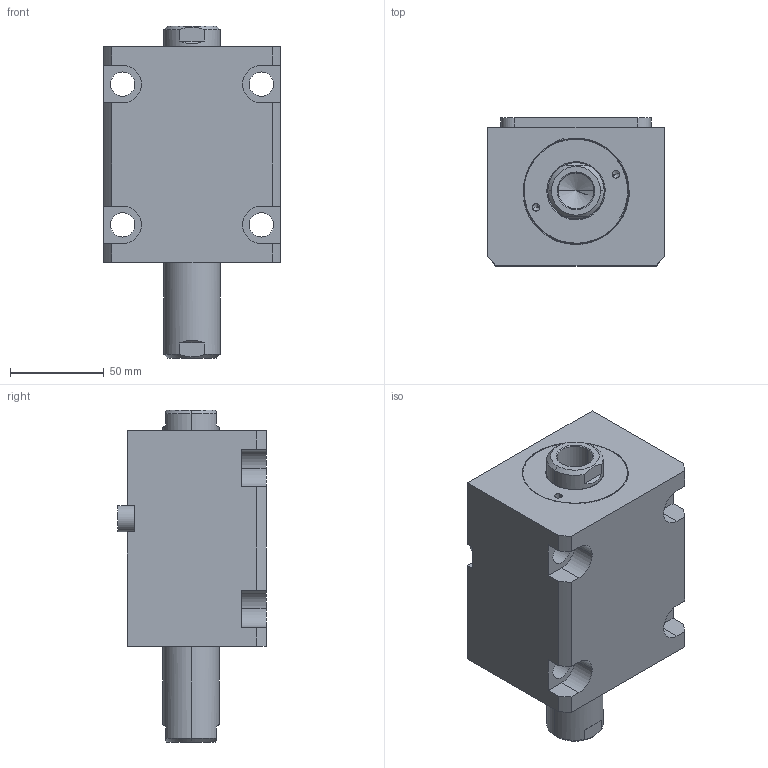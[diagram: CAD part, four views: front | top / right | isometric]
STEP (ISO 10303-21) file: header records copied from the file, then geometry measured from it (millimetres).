
FILE_DESCRIPTION (( 'STEP AP203' ), '1' );
FILE_NAME ('CHTB-LWM50-40N.STEP', '2018-05-22T08:13:51', ( '' ), ( '' ), 'SwSTEP 2.0', 'SolidWorks 2015', '' );
FILE_SCHEMA (( 'CONFIG_CONTROL_DESIGN' ));
Length unit declared in the file: millimetre
Products named in the file (4): 活塞杆LWM50-40N; 掛极LWM50-40N; CHTB-LWM50-40N; CHTM-SDMA50QG
Assembly tree (3 placements, depth 2):
  CHTB-LWM50-40N
    掛极LWM50-40N
    活塞杆LWM50-40N
    CHTM-SDMA50QG
Bounding box: 94 x 79 x 177 mm (x, y, z)
Volume: 722080.7 mm3; surface area: 120913 mm2
Topology: 3 solids, 3 shells, 213 faces, 571 edges, 374 vertices
Faces by surface type: cylinder 104, plane 57, cone 22, torus 16, bspline 14
Entity records: 11569 total; most frequent: CARTESIAN_POINT 6050, ORIENTED_EDGE 1126, DIRECTION 1011, EDGE_CURVE 563, AXIS2_PLACEMENT_3D 396, VERTEX_POINT 374, EDGE_LOOP 247, LINE 219
